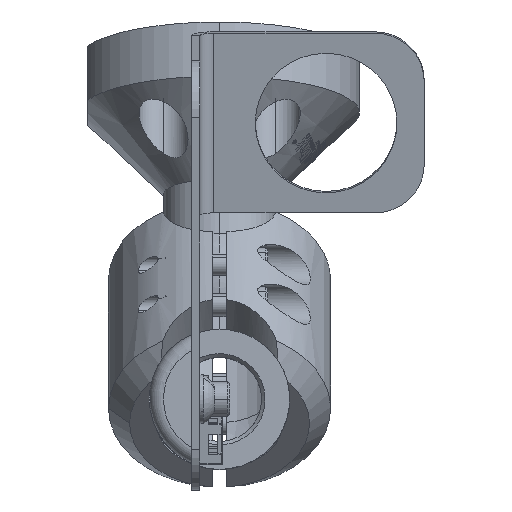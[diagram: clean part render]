
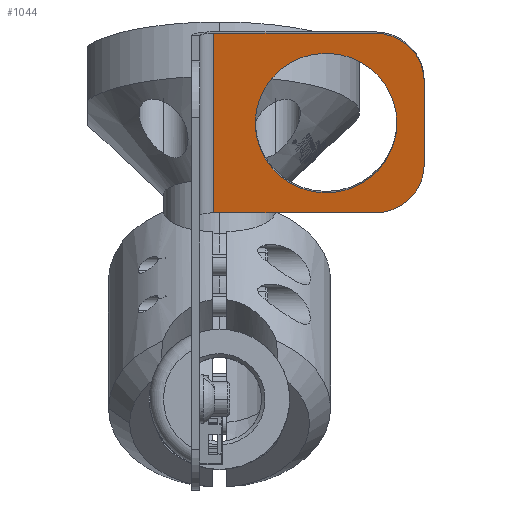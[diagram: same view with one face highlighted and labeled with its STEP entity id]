
A CAD part, top view. The second image highlights one B-rep face of the part: STEP entity #1044.
In plain terms, the highlighted planar face has unit normal (0, -0.174, 0.985) as drawn and (0, 0, -1) by its records, which use the part's own axes.
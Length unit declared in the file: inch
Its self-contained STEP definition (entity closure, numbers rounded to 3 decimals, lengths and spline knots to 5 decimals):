
#343 = DIRECTION ( 'NONE',  ( 0., 0., -1. ) ) ;
#408 = CARTESIAN_POINT ( 'NONE',  ( 1.625, -0.0747, 0.125 ) ) ;
#1044 = ADVANCED_FACE ( 'NONE', ( #24986, #22982 ), #22254, .T. ) ;
#1109 = EDGE_CURVE ( 'NONE', #34687, #18500, #25156, .T. ) ;
#1327 = EDGE_CURVE ( 'NONE', #29058, #14149, #29765, .T. ) ;
#2101 = CARTESIAN_POINT ( 'NONE',  ( 0., -2.0747, 0.125 ) ) ;
#3184 = EDGE_CURVE ( 'NONE', #14330, #34687, #31193, .T. ) ;
#3240 = VECTOR ( 'NONE', #29610, 39.37008 ) ;
#3259 = DIRECTION ( 'NONE',  ( 0., 1., 0. ) ) ;
#4040 = CARTESIAN_POINT ( 'NONE',  ( 1.1875, -2.0747, 0.125 ) ) ;
#5120 = EDGE_LOOP ( 'NONE', ( #32173, #13810 ) ) ;
#5453 = CARTESIAN_POINT ( 'NONE',  ( 1.625, -2.0747, 0.125 ) ) ;
#5827 = AXIS2_PLACEMENT_3D ( 'NONE', #33478, #28233, #3259 ) ;
#7117 = AXIS2_PLACEMENT_3D ( 'NONE', #17120, #13849, #14206 ) ;
#8378 = VECTOR ( 'NONE', #10045, 39.37008 ) ;
#8881 = CARTESIAN_POINT ( 'NONE',  ( 0.4375, -2.0747, 0.125 ) ) ;
#9211 = DIRECTION ( 'NONE',  ( 0., 1., 0. ) ) ;
#9296 = ORIENTED_EDGE ( 'NONE', *, *, #1109, .F. ) ;
#9938 = DIRECTION ( 'NONE',  ( 0., 0., -1. ) ) ;
#10021 = ORIENTED_EDGE ( 'NONE', *, *, #26338, .T. ) ;
#10045 = DIRECTION ( 'NONE',  ( 1., 0., 0. ) ) ;
#10250 = VERTEX_POINT ( 'NONE', #4040 ) ;
#10285 = ORIENTED_EDGE ( 'NONE', *, *, #13336, .F. ) ;
#11615 = DIRECTION ( 'NONE',  ( -1., 0., 0. ) ) ;
#11755 = ORIENTED_EDGE ( 'NONE', *, *, #17962, .T. ) ;
#12050 = CARTESIAN_POINT ( 'NONE',  ( 0., -0.1997, 0.125 ) ) ;
#12314 = CARTESIAN_POINT ( 'NONE',  ( 0.8125, -1.1997, 0.125 ) ) ;
#12417 = CARTESIAN_POINT ( 'NONE',  ( 0.8125, -1.83095, 0.125 ) ) ;
#12442 = VERTEX_POINT ( 'NONE', #8881 ) ;
#13336 = EDGE_CURVE ( 'NONE', #12442, #10250, #30241, .T. ) ;
#13359 = LINE ( 'NONE', #2101, #3240 ) ;
#13810 = ORIENTED_EDGE ( 'NONE', *, *, #32124, .F. ) ;
#13849 = DIRECTION ( 'NONE',  ( 0., 0., -1. ) ) ;
#14102 = CARTESIAN_POINT ( 'NONE',  ( 1.625, -0.1997, 0.125 ) ) ;
#14149 = VERTEX_POINT ( 'NONE', #12417 ) ;
#14206 = DIRECTION ( 'NONE',  ( 0., -1., 0. ) ) ;
#14330 = VERTEX_POINT ( 'NONE', #25862 ) ;
#14887 = DIRECTION ( 'NONE',  ( 0., 0., -1. ) ) ;
#15084 = DIRECTION ( 'NONE',  ( 0., 1., 0. ) ) ;
#15396 = AXIS2_PLACEMENT_3D ( 'NONE', #12314, #9938, #15084 ) ;
#15409 = EDGE_LOOP ( 'NONE', ( #10285, #11755, #33144, #9296, #33361, #10021 ) ) ;
#17117 = CIRCLE ( 'NONE', #15396, 0.63125 ) ;
#17120 = CARTESIAN_POINT ( 'NONE',  ( 0., 0., 0.125 ) ) ;
#17415 = CARTESIAN_POINT ( 'NONE',  ( 0.8125, -1.1997, 0.125 ) ) ;
#17962 = EDGE_CURVE ( 'NONE', #12442, #29711, #21570, .T. ) ;
#18175 = AXIS2_PLACEMENT_3D ( 'NONE', #17415, #14887, #9211 ) ;
#18500 = VERTEX_POINT ( 'NONE', #12050 ) ;
#21251 = EDGE_CURVE ( 'NONE', #18500, #29711, #13359, .T. ) ;
#21570 = CIRCLE ( 'NONE', #5827, 0.4375 ) ;
#21818 = AXIS2_PLACEMENT_3D ( 'NONE', #25311, #343, #31121 ) ;
#22254 = PLANE ( 'NONE',  #7117 ) ;
#22647 = DIRECTION ( 'NONE',  ( 0., 1., 0. ) ) ;
#22982 = FACE_OUTER_BOUND ( 'NONE', #15409, .T. ) ;
#24986 = FACE_BOUND ( 'NONE', #5120, .T. ) ;
#25156 = LINE ( 'NONE', #30802, #26250 ) ;
#25311 = CARTESIAN_POINT ( 'NONE',  ( 1.1875, -1.6372, 0.125 ) ) ;
#25354 = CARTESIAN_POINT ( 'NONE',  ( 0., -1.6372, 0.125 ) ) ;
#25862 = CARTESIAN_POINT ( 'NONE',  ( 1.625, -1.6372, 0.125 ) ) ;
#26250 = VECTOR ( 'NONE', #11615, 39.37008 ) ;
#26338 = EDGE_CURVE ( 'NONE', #14330, #10250, #27643, .T. ) ;
#27643 = CIRCLE ( 'NONE', #21818, 0.4375 ) ;
#28233 = DIRECTION ( 'NONE',  ( 0., 0., -1. ) ) ;
#29058 = VERTEX_POINT ( 'NONE', #35551 ) ;
#29610 = DIRECTION ( 'NONE',  ( 0., -1., 0. ) ) ;
#29711 = VERTEX_POINT ( 'NONE', #25354 ) ;
#29765 = CIRCLE ( 'NONE', #18175, 0.63125 ) ;
#30241 = LINE ( 'NONE', #5453, #8378 ) ;
#30802 = CARTESIAN_POINT ( 'NONE',  ( 1.625, -0.1997, 0.125 ) ) ;
#31121 = DIRECTION ( 'NONE',  ( 0., 1., 0. ) ) ;
#31193 = LINE ( 'NONE', #408, #33261 ) ;
#32124 = EDGE_CURVE ( 'NONE', #14149, #29058, #17117, .T. ) ;
#32173 = ORIENTED_EDGE ( 'NONE', *, *, #1327, .F. ) ;
#33144 = ORIENTED_EDGE ( 'NONE', *, *, #21251, .F. ) ;
#33261 = VECTOR ( 'NONE', #22647, 39.37008 ) ;
#33361 = ORIENTED_EDGE ( 'NONE', *, *, #3184, .F. ) ;
#33478 = CARTESIAN_POINT ( 'NONE',  ( 0.4375, -1.6372, 0.125 ) ) ;
#34687 = VERTEX_POINT ( 'NONE', #14102 ) ;
#35551 = CARTESIAN_POINT ( 'NONE',  ( 0.8125, -0.56845, 0.125 ) ) ;
